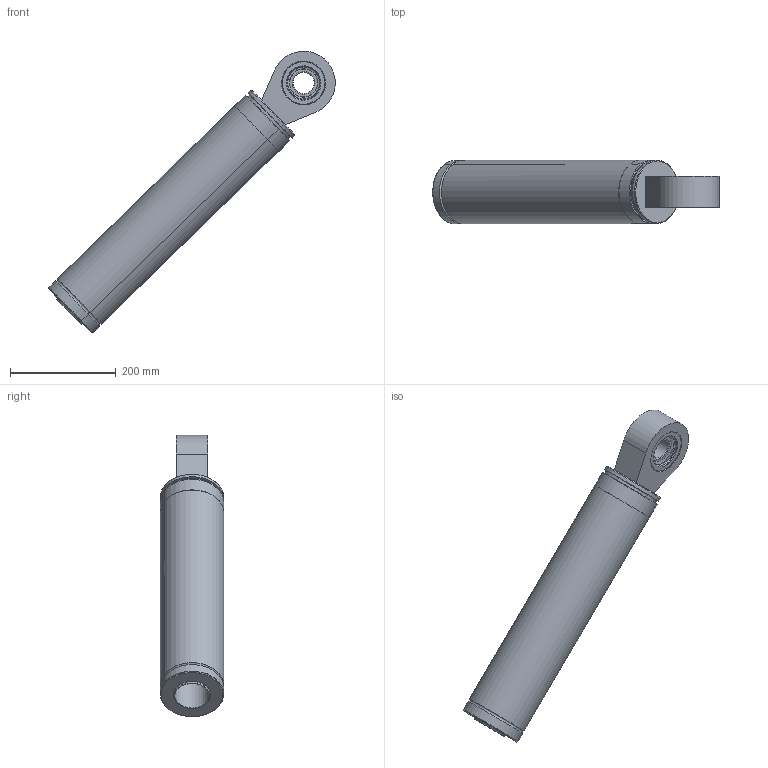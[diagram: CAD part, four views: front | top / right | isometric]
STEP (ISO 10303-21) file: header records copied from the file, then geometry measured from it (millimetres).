
FILE_DESCRIPTION(('CATIA V5 STEP Exchange','CAx-IF Rec.Pracs.--- Model Styling and Organization---1.2---2011-12-15','CAx-IF Rec.Pracs.--- Geometric and Assembly Validation Properties ---3.1---2011-10-19'),'2;1');
FILE_NAME('Z:\ROBOT\CATIA06\products\MC1000DL\Light_model\Step\140_J3Balancer_Push_Case_MC1000DL-02.stp','2016-12-26T04:03:12+00:00',('none'),('none'),'Version 5-6 Release 2012','CATIA V5 STEP AP214','none');
FILE_SCHEMA(('AUTOMOTIVE_DESIGN { 1 0 10303 214 1 1 1 1 }'));
Length unit declared in the file: millimetre
Products named in the file (1): 140_J3Balancer_Push_Case_MC1000DL-02
Bounding box: 542.36 x 119.98 x 532.56 mm (x, y, z)
Volume: 4889991.4 mm3; surface area: 432801 mm2
Topology: 4 solids, 5 shells, 165 faces, 348 edges, 208 vertices
Faces by surface type: torus 44, cone 42, cylinder 38, plane 37, sphere 4
Entity records: 4121 total; most frequent: CARTESIAN_POINT 701, ORIENTED_EDGE 696, DIRECTION 528, EDGE_CURVE 348, AXIS2_PLACEMENT_3D 324, CIRCLE 228, VERTEX_POINT 208, EDGE_LOOP 190
